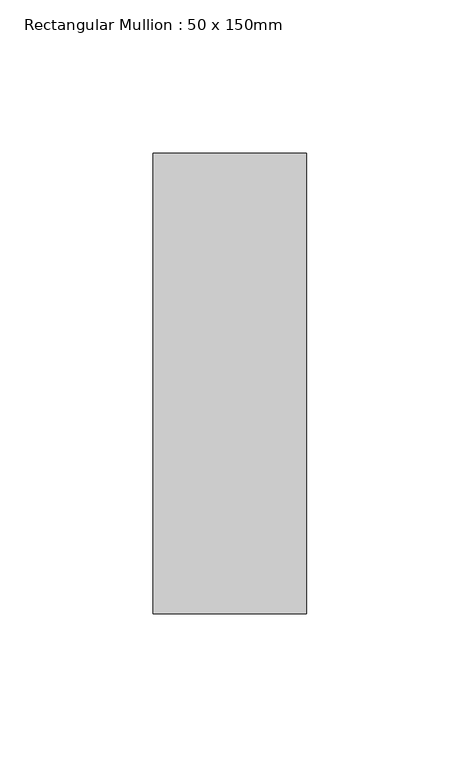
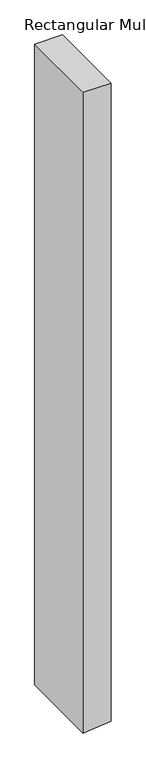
"""IFC4 building model written with IfcOpenShell, lengths in millimetres: member geometry, Rectangular Mullion : 50 x 150mm."""

from ifc_helpers import new_model, si_unit, frame, origin, place, context, project, spatial, polyline, outline, extrude, source, transform, mapped, element, save


def rectangular_mullion_50_x_150mm_397e71eb(model_context):
    return source(origin(), model_context, "Body", "SweptSolid", [
        extrude(outline(polyline([(0.0, 25.0), (0.0, -25.0), (-1211.2930191, -25.0), (-1209.282252, -5.0022633), (-1206.2655324, 25.0), (0.0, 25.0)])), frame((0.0, -75.0, 0.0), z_axis=(0.0, 1.0, 0.0), x_axis=(0.0, 0.0, 1.0)), (0.0, 0.0, 1.0), 150.0),
    ])


if __name__ == "__main__":
    model = new_model("IFC4")
    model_context = context("Model", 3, world=origin())
    ifc_project = project(units=[si_unit("LENGTHUNIT", "METRE", prefix="MILLI")], contexts=[model_context])
    site = spatial("IfcSite", under=ifc_project)
    building = spatial("IfcBuilding", under=site)
    placement = place(None, origin())
    rectangular_mullion_50_x_150mm_shape = rectangular_mullion_50_x_150mm_397e71eb(model_context)
    element("IfcMember", 1, ObjectType="Rectangular Mullion : 50 x 150mm", at=placement, inside=building, context=model_context, shape_type="MappedRepresentation", body=[
        mapped(rectangular_mullion_50_x_150mm_shape, transform((0.0, 0.0, 0.0), x_axis=(1.0, 0.0, 0.0), y_axis=(0.0, 1.0, 0.0), z_axis=(0.0, 0.0, 1.0))),
    ])
    save(model, "model.ifc")
